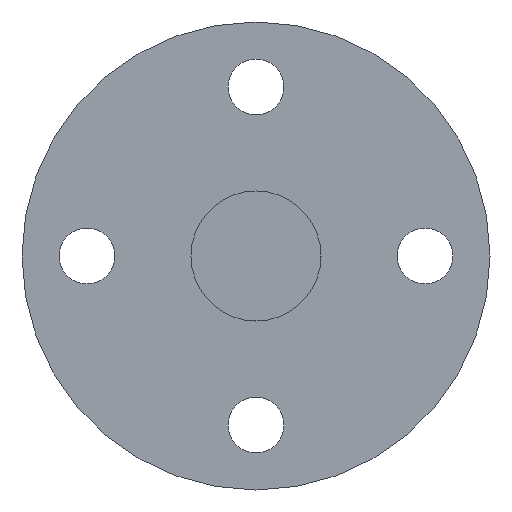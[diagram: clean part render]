
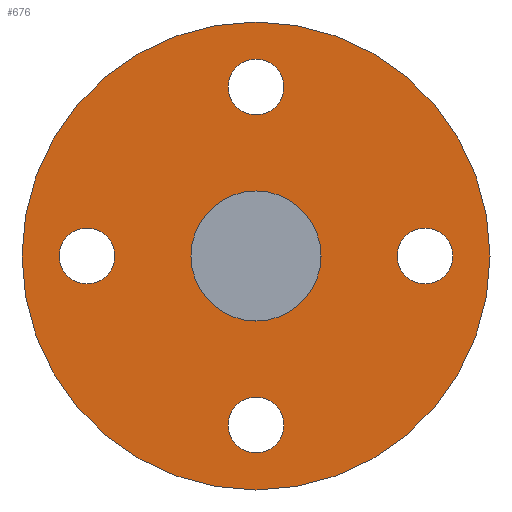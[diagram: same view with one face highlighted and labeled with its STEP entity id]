
A CAD part, left-side view. The second image highlights one B-rep face of the part: STEP entity #676.
In plain terms, the highlighted planar face has unit normal (-1, 0, 0).
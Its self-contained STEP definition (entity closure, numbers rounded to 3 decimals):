
#565=CARTESIAN_POINT('',(135.0,13.,-2.15));
#566=VERTEX_POINT('',#565);
#567=CARTESIAN_POINT('',(135.0,13.,0.));
#568=DIRECTION('',(1.0,0.0,0.0));
#569=DIRECTION('',(0.0,0.0,-1.0));
#570=AXIS2_PLACEMENT_3D('',#567,#568,#569);
#571=CIRCLE('',#570,2.15);
#572=EDGE_CURVE('',#566,#566,#571,.T.);
#585=CARTESIAN_POINT('',(135.0,-2.15,-13.));
#586=VERTEX_POINT('',#585);
#587=CARTESIAN_POINT('',(135.0,0.,-13.));
#588=DIRECTION('',(1.0,0.0,0.0));
#589=DIRECTION('',(0.0,-1.0,0.0));
#590=AXIS2_PLACEMENT_3D('',#587,#588,#589);
#591=CIRCLE('',#590,2.15);
#592=EDGE_CURVE('',#586,#586,#591,.T.);
#605=CARTESIAN_POINT('',(135.0,-13.,2.15));
#606=VERTEX_POINT('',#605);
#607=CARTESIAN_POINT('',(135.0,-13.,0.));
#608=DIRECTION('',(1.0,0.0,0.0));
#609=DIRECTION('',(0.0,0.0,1.0));
#610=AXIS2_PLACEMENT_3D('',#607,#608,#609);
#611=CIRCLE('',#610,2.15);
#612=EDGE_CURVE('',#606,#606,#611,.T.);
#625=CARTESIAN_POINT('',(135.0,2.15,13.));
#626=VERTEX_POINT('',#625);
#627=CARTESIAN_POINT('',(135.0,0.0,13.));
#628=DIRECTION('',(1.0,0.0,0.0));
#629=DIRECTION('',(0.0,1.0,0.0));
#630=AXIS2_PLACEMENT_3D('',#627,#628,#629);
#631=CIRCLE('',#630,2.15);
#632=EDGE_CURVE('',#626,#626,#631,.T.);
#637=CARTESIAN_POINT('',(135.0,0.0,11.5));
#638=DIRECTION('',(-1.0,0.0,0.0));
#639=DIRECTION('',(0.0,0.0,1.0));
#640=AXIS2_PLACEMENT_3D('',#637,#638,#639);
#641=PLANE('',#640);
#642=CARTESIAN_POINT('',(135.0,0.0,18.0));
#643=VERTEX_POINT('',#642);
#644=CARTESIAN_POINT('',(135.0,0.0,0.0));
#645=DIRECTION('',(-1.0,0.0,0.0));
#646=DIRECTION('',(0.0,0.0,1.0));
#647=AXIS2_PLACEMENT_3D('',#644,#645,#646);
#648=CIRCLE('',#647,18.0);
#649=EDGE_CURVE('',#643,#643,#648,.T.);
#650=ORIENTED_EDGE('',*,*,#649,.T.);
#651=EDGE_LOOP('',(#650));
#652=FACE_OUTER_BOUND('',#651,.T.);
#653=ORIENTED_EDGE('',*,*,#572,.T.);
#654=EDGE_LOOP('',(#653));
#655=FACE_BOUND('',#654,.T.);
#656=ORIENTED_EDGE('',*,*,#592,.T.);
#657=EDGE_LOOP('',(#656));
#658=FACE_BOUND('',#657,.T.);
#659=ORIENTED_EDGE('',*,*,#612,.T.);
#660=EDGE_LOOP('',(#659));
#661=FACE_BOUND('',#660,.T.);
#662=ORIENTED_EDGE('',*,*,#632,.T.);
#663=EDGE_LOOP('',(#662));
#664=FACE_BOUND('',#663,.T.);
#665=CARTESIAN_POINT('',(135.0,0.0,5.));
#666=VERTEX_POINT('',#665);
#667=CARTESIAN_POINT('',(135.0,0.0,0.0));
#668=DIRECTION('',(-1.0,0.0,0.0));
#669=DIRECTION('',(0.0,0.0,1.0));
#670=AXIS2_PLACEMENT_3D('',#667,#668,#669);
#671=CIRCLE('',#670,5.);
#672=EDGE_CURVE('',#666,#666,#671,.T.);
#673=ORIENTED_EDGE('',*,*,#672,.F.);
#674=EDGE_LOOP('',(#673));
#675=FACE_BOUND('',#674,.T.);
#676=ADVANCED_FACE('',(#652,#655,#658,#661,#664,#675),#641,.T.);
